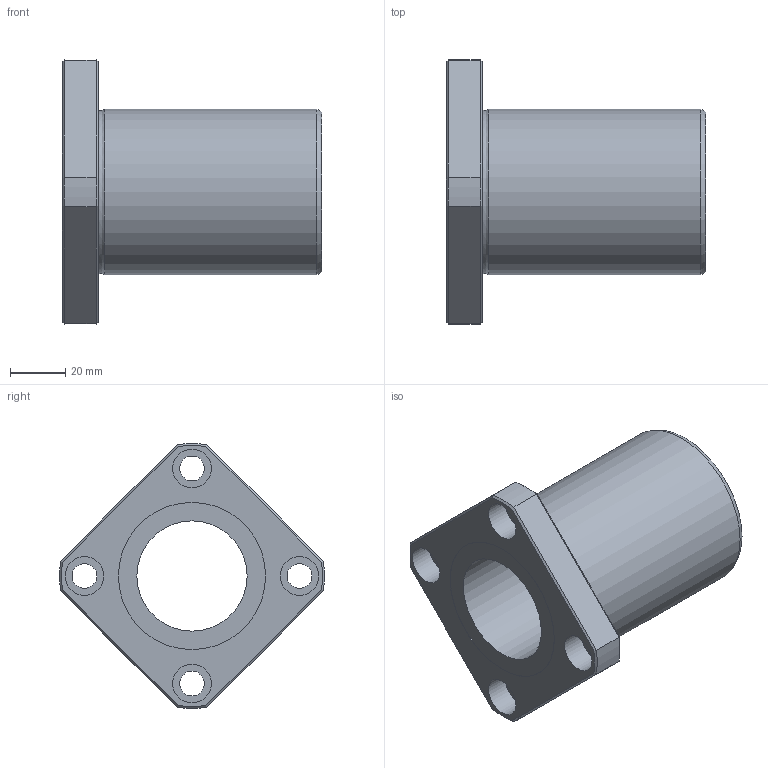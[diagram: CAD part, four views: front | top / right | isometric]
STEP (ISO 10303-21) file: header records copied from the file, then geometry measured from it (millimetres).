
FILE_DESCRIPTION((''),'2;1');
FILE_NAME('C:\Documents and Settings\土屋\My Documents\土屋移動用フォルダ\製品 (図面)\カタログ用3D\変換ファイル\OZAK_3D-CAD(STEP形式)\Part1.-Linear Bearings_ﾘﾆｱﾍﾞｱﾘﾝｸﾞ\09_Maintenance Free_ﾒｲﾝﾃﾅﾝｽﾌﾘｰ\L2017-09-21T11:58:36','2017-09-21T11:58:36',('y'),(''),'Autodesk Inventor 11','Autodesk Inventor 11','');
FILE_SCHEMA(('AUTOMOTIVE_DESIGN { 1 0 10303 214 1 1 1 1 }'));
Length unit declared in the file: millimetre
Products named in the file (1): LFK-MF
Bounding box: 94 x 95.93 x 95.93 mm (x, y, z)
Volume: 175546.6 mm3; surface area: 40498.7 mm2
Topology: 1 solids, 1 shells, 47 faces, 96 edges, 58 vertices
Faces by surface type: plane 21, cylinder 16, cone 8, torus 1, bspline 1
Full cylindrical faces by diameter (mm): 9 x4, 14 x4, 40 x1, 53.4 x2, 60 x1
Entity records: 1275 total; most frequent: CARTESIAN_POINT 298, DIRECTION 202, ORIENTED_EDGE 164, AXIS2_PLACEMENT_3D 89, EDGE_CURVE 82, EDGE_LOOP 78, VERTEX_POINT 58, FACE_OUTER_BOUND 47
